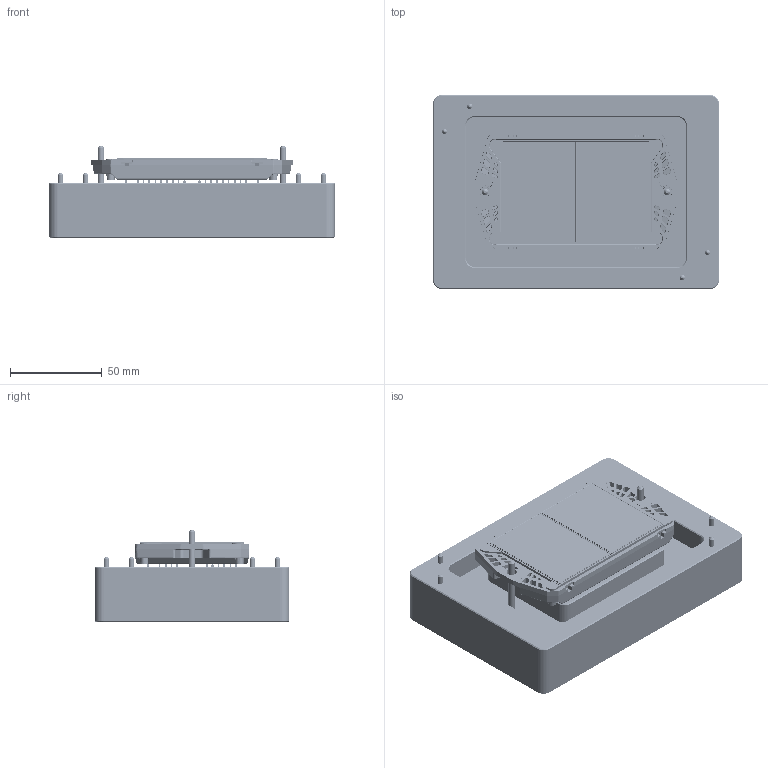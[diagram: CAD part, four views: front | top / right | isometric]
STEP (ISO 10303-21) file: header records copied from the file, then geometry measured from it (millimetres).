
FILE_DESCRIPTION(/* description */ ('Unknown','CAx-IF Rec.Pracs.---Representation and Presentation of Product Manufacturing Information (PMI)---4.0---2014-10-13','CAx-IF Rec.Pracs.---3D Tessellated Geometry---0.4---2014-09-14','2;1'),/* implementation_level */ '2;1');
FILE_NAME(/* name */ 'flowE3-Bottom',/* time_stamp */ '2026-01-13T14:29:04+01:00',/* author */ ('Unknown'),/* organization */ ('Unknown'),/* preprocessor_version */ 'ST-DEVELOPER v20',/* originating_system */ 'Solid Edge',/* authorisation */ 'Unknown');
FILE_SCHEMA (('AP242_MANAGED_MODEL_BASED_3D_ENGINEERING_MIM_LF { 1 0 10303 442 1 1 4 }'));
Products named in the file (5): PRESS-IN; module; poz_csap; poz_csap_nyak; FlowE3-4T12_Bottom_adapter_2
Assembly tree (8 placements, depth 2):
  PRESS-IN
    module
    poz_csap  x2
    poz_csap_nyak  x4
    FlowE3-4T12_Bottom_adapter_2
Bounding box: 156 x 106 x 50 mm (x, y, z)
Volume: 496292.8 mm3; surface area: 99949.4 mm2
Topology: 8 solids, 62 shells, 10042 faces, 24892 edges, 15476 vertices
Faces by surface type: plane 5386, cylinder 2636, bspline 1568, cone 406, torus 28, sphere 18
Full cylindrical faces by diameter (mm): 1 x52, 3 x14, 3.5 x2
Entity records: 379890 total; most frequent: CARTESIAN_POINT 87912, ORIENTED_EDGE 49414, DIRECTION 39975, EDGE_CURVE 24707, VERTEX_POINT 15432, LINE 13981, VECTOR 13981, AXIS2_PLACEMENT_3D 12997
